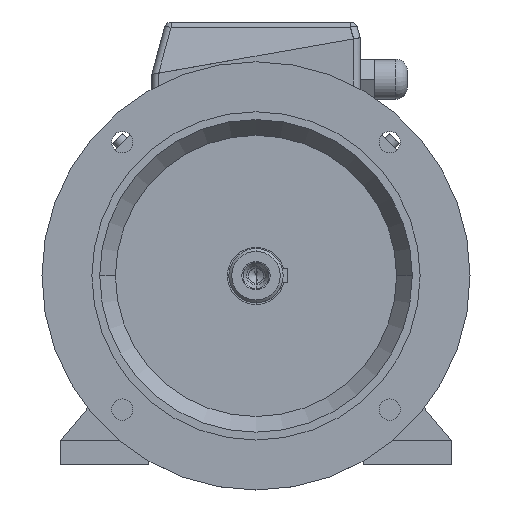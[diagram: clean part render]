
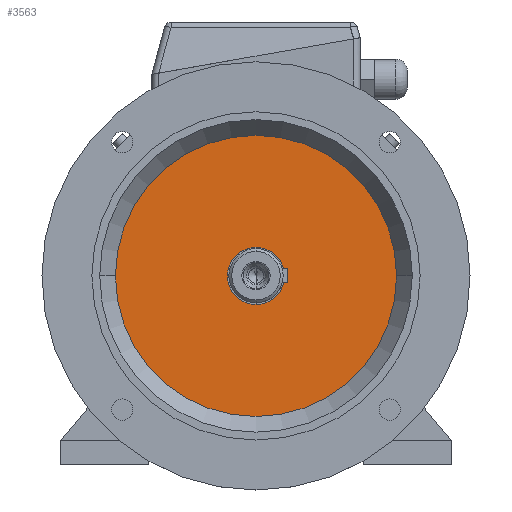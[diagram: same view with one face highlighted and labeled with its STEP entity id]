
A CAD part, top view. The second image highlights one B-rep face of the part: STEP entity #3563.
In plain terms, the highlighted planar face has unit normal (0, 0, 1).
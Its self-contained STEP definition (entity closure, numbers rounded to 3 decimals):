
#2141 = ORIENTED_EDGE ( 'NONE', *, *, #5172, .F. ) ;
#2722 = ORIENTED_EDGE ( 'NONE', *, *, #12751, .F. ) ;
#3296 = EDGE_LOOP ( 'NONE', ( #2722, #2141 ) ) ;
#3563 = ADVANCED_FACE ( 'NONE', ( #4508 ), #4509, .T. ) ;
#4508 = FACE_OUTER_BOUND ( 'NONE', #3296, .T. ) ;
#4509 = PLANE ( 'NONE',  #4510 ) ;
#4510 = AXIS2_PLACEMENT_3D ( 'NONE', #4511, #4512, #4513 ) ;
#4511 = CARTESIAN_POINT ( 'NONE',  ( 0., 98.5, 47. ) ) ;
#4512 = DIRECTION ( 'NONE',  ( 0., 0., 1. ) ) ;
#4513 = DIRECTION ( 'NONE',  ( 1., 0., 0. ) ) ;
#5172 = EDGE_CURVE ( 'NONE', #12628, #12684, #5359, .T. ) ;
#5359 = CIRCLE ( 'NONE', #5360, 98.5 ) ;
#5360 = AXIS2_PLACEMENT_3D ( 'NONE', #5361, #5362, #5363 ) ;
#5361 = CARTESIAN_POINT ( 'NONE',  ( 0., 0., 47. ) ) ;
#5362 = DIRECTION ( 'NONE',  ( 0., 0., -1. ) ) ;
#5363 = DIRECTION ( 'NONE',  ( -1., 0., 0. ) ) ;
#10188 = CARTESIAN_POINT ( 'NONE',  ( -98.5, 0., 47. ) ) ;
#10356 = CARTESIAN_POINT ( 'NONE',  ( 98.5, 0., 47. ) ) ;
#10470 = CIRCLE ( 'NONE', #10471, 98.5 ) ;
#10471 = AXIS2_PLACEMENT_3D ( 'NONE', #10472, #10473, #10474 ) ;
#10472 = CARTESIAN_POINT ( 'NONE',  ( 0., 0., 47. ) ) ;
#10473 = DIRECTION ( 'NONE',  ( 0., 0., -1. ) ) ;
#10474 = DIRECTION ( 'NONE',  ( -1., 0., 0. ) ) ;
#12628 = VERTEX_POINT ( 'NONE', #10188 ) ;
#12684 = VERTEX_POINT ( 'NONE', #10356 ) ;
#12751 = EDGE_CURVE ( 'NONE', #12684, #12628, #10470, .T. ) ;
